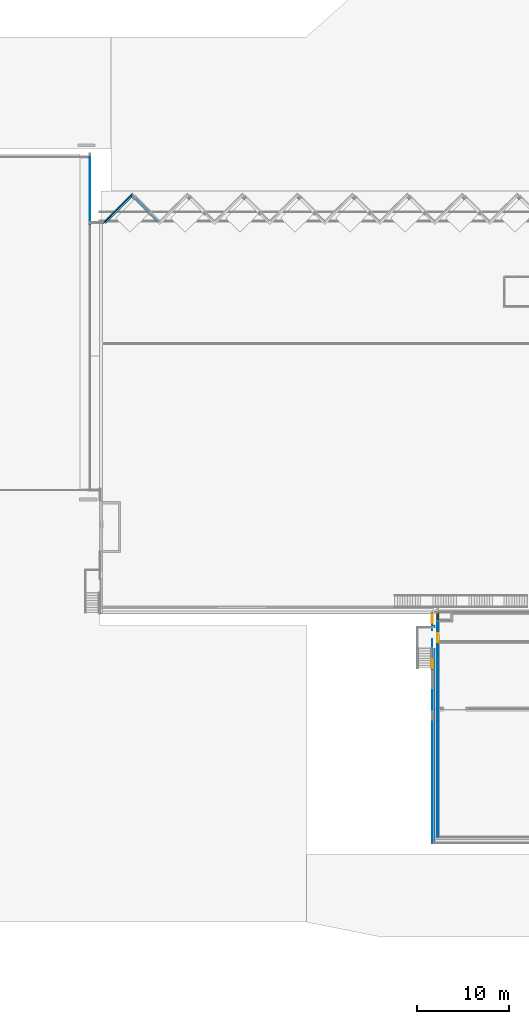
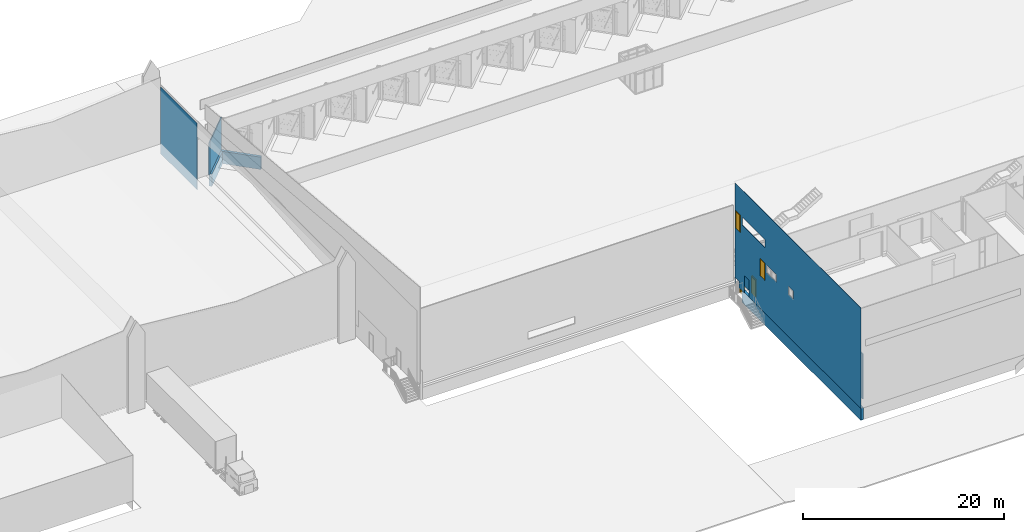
"""IFC2X3 building model written with IfcOpenShell, lengths in millimetres."""

from ifc_helpers import new_model, entity, si_unit, converted_unit, derived_unit, direction, frame, frame_2d, origin, origin_2d_with_axis, place, context, subcontext, project, spatial, polyline, rectangle, outline, extrude, clip, halfspace, source, transform, mapped, material, material_list, layer, layer_set, layer_usage, type_object, type_shapes, element, fill, save


model = new_model("IFC2X3")

# Units and contexts
model_context = context("Model", 3, precision=0.01, world=origin(), true_north=direction((4.05803320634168e-15, -1.0)))
body_context = subcontext(model_context, "Body", "Model", "MODEL_VIEW")
ifc_project = project(units=[si_unit("LENGTHUNIT", "METRE", prefix="MILLI"), si_unit("AREAUNIT", "SQUARE_METRE"), si_unit("VOLUMEUNIT", "CUBIC_METRE"), converted_unit("PLANEANGLEUNIT", "DEGREE", entity("IfcRatioMeasure", 0.0174532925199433), si_unit("PLANEANGLEUNIT", "RADIAN"), dimensions=[0, 0, 0, 0, 0, 0, 0]), si_unit("MASSUNIT", "GRAM", prefix="KILO"), derived_unit("MASSDENSITYUNIT", [(si_unit("MASSUNIT", "GRAM", prefix="KILO"), 1), (si_unit("LENGTHUNIT", "METRE"), -3)]), si_unit("TIMEUNIT", "SECOND"), si_unit("FREQUENCYUNIT", "HERTZ"), si_unit("THERMODYNAMICTEMPERATUREUNIT", "DEGREE_CELSIUS"), derived_unit("THERMALTRANSMITTANCEUNIT", [(si_unit("MASSUNIT", "GRAM", prefix="KILO"), 1), (si_unit("THERMODYNAMICTEMPERATUREUNIT", "KELVIN"), -1), (si_unit("TIMEUNIT", "SECOND"), -3)]), derived_unit("VOLUMETRICFLOWRATEUNIT", [(si_unit("LENGTHUNIT", "METRE"), 3), (si_unit("TIMEUNIT", "SECOND"), -1)]), si_unit("ELECTRICCURRENTUNIT", "AMPERE"), si_unit("ELECTRICVOLTAGEUNIT", "VOLT"), si_unit("POWERUNIT", "WATT"), si_unit("FORCEUNIT", "NEWTON", prefix="KILO"), si_unit("ILLUMINANCEUNIT", "LUX"), si_unit("LUMINOUSFLUXUNIT", "LUMEN"), si_unit("LUMINOUSINTENSITYUNIT", "CANDELA"), derived_unit("USERDEFINED", [(si_unit("MASSUNIT", "GRAM", prefix="KILO"), -1), (si_unit("LENGTHUNIT", "METRE"), -2), (si_unit("TIMEUNIT", "SECOND"), 3), (si_unit("LUMINOUSFLUXUNIT", "LUMEN"), 1)]), derived_unit("LINEARVELOCITYUNIT", [(si_unit("LENGTHUNIT", "METRE"), 1), (si_unit("TIMEUNIT", "SECOND"), -1)]), si_unit("PRESSUREUNIT", "PASCAL"), derived_unit("USERDEFINED", [(si_unit("LENGTHUNIT", "METRE"), -2), (si_unit("MASSUNIT", "GRAM", prefix="KILO"), 1), (si_unit("TIMEUNIT", "SECOND"), -2)])], contexts=[model_context])

# Site, building, storey
site_placement = place(None, frame((927466.849349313, 583801.882853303, 0.0), z_axis=(0.0, 0.0, 1.0), x_axis=(-1.0, 0.0, 0.0)))
site = spatial("IfcSite", under=ifc_project, at=site_placement, Name="Surface", CompositionType="ELEMENT")
building_placement = place(site_placement, origin())
building = spatial("IfcBuilding", under=site, at=building_placement, CompositionType="ELEMENT")
storey_1_placement = place(building_placement, frame((0.0, 0.0, 44170.0)))
storey_1 = spatial("IfcBuildingStorey", under=building, at=storey_1_placement, Name="Ground FFL", CompositionType="ELEMENT", Elevation=44170.0)

# Walls
ifc_material_1 = material(Name="Side cladding")
ifc_layer_1 = layer(ifc_material_1, 38.0)
ifc_layer_set_1 = layer_set([ifc_layer_1], Name="Basic Wall:Cladding dark")
ifc_layer_usage_1 = layer_usage(ifc_layer_set_1, "AXIS2", "NEGATIVE", 19.0)
wall_type_1 = type_object("IfcWallType", Name="Basic Wall:Cladding dark", PredefinedType="STANDARD", material=ifc_layer_set_1)
wall_1_placement = place(storey_1_placement, frame((-43531.3918981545, -30321.7403210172, -1295.37735616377), z_axis=(0.0, 0.0, 1.0), x_axis=(0.0, -1.0, 0.0)))
element("IfcWallStandardCase", 1, at=wall_1_placement, inside=storey_1, type_object=wall_type_1, material=ifc_layer_usage_1, Name="Basic Wall:Cladding dark", ObjectType="Basic Wall:Cladding dark", context=body_context, shape_type="Clipping", body=[
    clip(extrude(rectangle(XDim=7276.01140511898, YDim=37.9999999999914, at=frame_2d((3638.00570255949, -2.07478478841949e-12), x_axis=(-1.0, 0.0))), origin(), (0.0, 0.0, 1.0), 8100.0), halfspace(frame((0.0, -19.0, 8100.0), z_axis=(0.0, 0.0, 1.0), x_axis=(0.0, 1.0, 0.0)), False)),
])
ifc_material_2 = material(Name="Isopenal")
ifc_layer_2 = layer(ifc_material_2, 100.0)
ifc_layer_set_2 = layer_set([ifc_layer_2], Name="Basic Wall:Isopanel")
ifc_layer_usage_2 = layer_usage(ifc_layer_set_2, "AXIS2", "POSITIVE", -50.0)
wall_type_2 = type_object("IfcWallType", Name="Basic Wall:Isopanel", PredefinedType="STANDARD", material=ifc_layer_set_2)
wall_2_placement = place(storey_1_placement, frame((-48165.2057888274, -33638.9669325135, 0.0), z_axis=(0.0, 0.0, 1.0), x_axis=(0.707106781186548, 0.707106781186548, 0.0)))
element("IfcWallStandardCase", 2, at=wall_2_placement, inside=storey_1, type_object=wall_type_2, material=ifc_layer_usage_2, Name="Basic Wall:Isopanel", ObjectType="Basic Wall:Isopanel", context=body_context, shape_type="SweptSolid", body=[
    extrude(outline(polyline([(4599.84550720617, -50.0), (4499.84550720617, 50.0), (100.0, 50.0), (0.0, 50.0), (0.0, -50.0), (4458.42415096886, -50.0), (4599.84550720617, -50.0)])), origin(), (0.0, 0.0, 1.0), 3910.35154955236),
])

# Wall, opening
ifc_layer_usage_3 = layer_usage(ifc_layer_set_2, "AXIS2", "POSITIVE", -50.0)
wall_3_placement = place(storey_1_placement, frame((-81397.9372768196, 22507.4703266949, 500.0), z_axis=(0.0, 0.0, 1.0), x_axis=(0.0, 1.0, 0.0)))
wall_3 = element("IfcWallStandardCase", 3, at=wall_3_placement, inside=storey_1, type_object=wall_type_2, material=ifc_layer_usage_3, Name="Basic Wall:Isopanel", ObjectType="Basic Wall:Isopanel", context=body_context, shape_type="SweptSolid", body=[
    extrude(rectangle(XDim=13848.4995753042, YDim=100.000000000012, at=frame_2d((6924.24978765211, 2.8634872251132e-12), x_axis=(-1.0, 0.0))), origin(), (0.0, 0.0, 1.0), 5500.0),
])
opening_1_placement = place(wall_3_placement, origin())
element("IfcOpeningElement", 4, at=opening_1_placement, cuts=wall_3, Name="Basic Wall:Isopanel", ObjectType="Opening", context=body_context, shape_type="SweptSolid", body=[
    extrude(rectangle(XDim=899.999999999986, YDim=1000.0, at=frame_2d((2.18847162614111e-12, 0.0), x_axis=(0.0, 1.0))), frame((687.248923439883, 50.0, 5050.0), z_axis=(0.0, -1.0, 0.0), x_axis=(-1.0, 0.0, 0.0)), (0.0, 0.0, 1.0), 100.0),
])

# Wall, openings, door
ifc_layer_usage_4 = layer_usage(ifc_layer_set_2, "AXIS2", "NEGATIVE", 50.0)
wall_4_placement = place(storey_1_placement, frame((-81397.9372768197, 12008.2777512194, 0.0), z_axis=(0.0, 0.0, 1.0), x_axis=(0.0, 1.0, 0.0)))
wall_4 = element("IfcWallStandardCase", 5, at=wall_4_placement, inside=storey_1, type_object=wall_type_2, material=ifc_layer_usage_4, Name="Basic Wall:Isopanel", ObjectType="Basic Wall:Isopanel", context=body_context, shape_type="SweptSolid", body=[
    extrude(rectangle(XDim=10399.1925754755, YDim=100.000000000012, at=frame_2d((5199.59628773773, 3.35020899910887e-12), x_axis=(-1.0, 0.0))), origin(), (0.0, 0.0, 1.0), 3499.99999999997),
])
opening_2_placement = place(wall_4_placement, frame((3094.19257547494, 50.0, 0.0)))
opening_2 = element("IfcOpeningElement", 6, at=opening_2_placement, cuts=wall_4, Name="M_Single-Flush:0813 x 2030mm:1", ObjectType="Opening", context=body_context, shape_type="SweptSolid", body=[
    extrude(rectangle(XDim=813.0, YDim=2030.0, at=frame_2d((1015.0, 406.5), x_axis=(0.0, 1.0))), frame((0.0, 0.0, 0.0), z_axis=(0.0, -1.0, 0.0), x_axis=(0.0, 0.0, 1.0)), (0.0, 0.0, 1.0), 100.0),
])
opening_3_placement = place(wall_4_placement, frame((759.709606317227, 50.0, -1360.0)))
opening_3 = element("IfcOpeningElement", 7, at=opening_3_placement, cuts=wall_4, Name="M_Single-Flush:700 x 2030mm:1", ObjectType="Opening", context=body_context, shape_type="SweptSolid", body=[
    extrude(rectangle(XDim=700.0, YDim=2030.0, at=frame_2d((1015.0, 350.0), x_axis=(0.0, 1.0))), frame((0.0, 0.0, 0.0), z_axis=(0.0, -1.0, 0.0), x_axis=(0.0, 0.0, 1.0)), (0.0, 0.0, 1.0), 100.0),
])
ifc_material_3 = material(Name="Door - Frame")
ifc_material_4 = material(Name="Door - Panel")
ifc_material_list_1 = material_list([ifc_material_3, ifc_material_4])
ifc_material_list_2 = material_list([ifc_material_3, ifc_material_4])
door_style_1 = type_object("IfcDoorStyle", Name="0813 x 2030mm", ConstructionType="NOTDEFINED", OperationType="SINGLE_SWING_RIGHT", ParameterTakesPrecedence=False, Sizeable=False, material=ifc_material_list_2)
shared_shape_1 = source(origin(), body_context, "Body", "SweptSolid", [
    extrude(outline(polyline([(-482.5, -1072.0), (482.5, -1072.0), (482.5, 1034.0), (406.5, 1034.0), (406.5, -996.0), (-406.5, -996.0), (-406.5, 1034.0), (-482.5, 1034.0), (-482.5, -1072.0)])), frame((406.500000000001, 100.0, 1034.0), z_axis=(0.0, 1.0, 0.0), x_axis=(1.0, 0.0, 0.0)), (0.0, 0.0, 1.0), 24.9999999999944),
    extrude(outline(polyline([(-1072.0, -482.499999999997), (1034.0, -482.499999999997), (1034.0, -406.500000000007), (-996.0, -406.500000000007), (-996.0, 406.500000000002), (1034.0, 406.500000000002), (1034.0, 482.500000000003), (-1072.0, 482.500000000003), (-1072.0, -482.499999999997)])), frame((406.500000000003, -25.0, 1034.0), z_axis=(0.0, 1.0, 0.0), x_axis=(0.0, 0.0, -1.0)), (0.0, 0.0, 1.0), 25.0000000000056),
    extrude(rectangle(XDim=51.0, YDim=813.0, at=origin_2d_with_axis()), frame((406.500000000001, 74.4999999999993, 0.0), z_axis=(0.0, 0.0, 1.0), x_axis=(0.0, 1.0, 0.0)), (0.0, 0.0, 1.0), 2030.0),
])
type_shapes(door_style_1, [shared_shape_1])
door_1_placement = place(opening_2_placement, frame((0.0, 0.0, 0.0), z_axis=(0.0, 0.0, 1.0), x_axis=(-1.0, 0.0, 0.0)))
door_1 = element("IfcDoor", 8, at=door_1_placement, inside=storey_1, type_object=door_style_1, material=ifc_material_list_1, Name="M_Single-Flush:0813 x 2030mm", ObjectType="0813 x 2030mm", OverallHeight=2030.0, OverallWidth=812.999999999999, context=body_context, shape_type="MappedRepresentation", body=[
    mapped(shared_shape_1, transform((0.0, 0.0, 0.0), scale=1.0)),
])
fill(opening_2, door_1)

# Storey
storey_2_placement = place(building_placement, frame((0.0, 0.0, 42810.0)))
storey_2 = spatial("IfcBuildingStorey", under=building, at=storey_2_placement, Name="Hardstand", CompositionType="ELEMENT", Elevation=42810.0)

# Door
ifc_material_list_3 = material_list([ifc_material_3, ifc_material_4])
ifc_material_list_4 = material_list([ifc_material_3, ifc_material_4])
door_style_2 = type_object("IfcDoorStyle", Name="700 x 2030mm", ConstructionType="NOTDEFINED", OperationType="SINGLE_SWING_RIGHT", ParameterTakesPrecedence=False, Sizeable=False, material=ifc_material_list_4)
shared_shape_2 = source(origin(), body_context, "Body", "SweptSolid", [
    extrude(outline(polyline([(-426.0, -1072.0), (426.0, -1072.0), (426.0, 1034.0), (350.0, 1034.0), (350.0, -996.0), (-350.0, -996.0), (-350.0, 1034.0), (-426.0, 1034.0), (-426.0, -1072.0)])), frame((350.0, 100.0, 1034.0), z_axis=(0.0, 1.0, 0.0), x_axis=(1.0, 0.0, 0.0)), (0.0, 0.0, 1.0), 24.9999999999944),
    extrude(outline(polyline([(-1072.0, -426.0), (1034.0, -426.0), (1034.0, -350.0), (-996.0, -350.0), (-996.0, 350.0), (1034.0, 350.0), (1034.0, 426.0), (-1072.0, 426.0), (-1072.0, -426.0)])), frame((350.0, -25.0, 1034.0), z_axis=(0.0, 1.0, 0.0), x_axis=(0.0, 0.0, -1.0)), (0.0, 0.0, 1.0), 25.0000000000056),
    extrude(rectangle(XDim=51.0, YDim=700.0, at=origin_2d_with_axis()), frame((350.0, 74.5000000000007, 0.0), z_axis=(0.0, 0.0, 1.0), x_axis=(0.0, 1.0, 0.0)), (0.0, 0.0, 1.0), 2030.0),
])
type_shapes(door_style_2, [shared_shape_2])
door_2_placement = place(opening_3_placement, frame((0.0, 0.0, 0.0), z_axis=(0.0, 0.0, 1.0), x_axis=(-1.0, 0.0, 0.0)))
door_2 = element("IfcDoor", 9, at=door_2_placement, inside=storey_2, type_object=door_style_2, material=ifc_material_list_3, Name="M_Single-Flush:700 x 2030mm", ObjectType="700 x 2030mm", OverallHeight=2030.0, OverallWidth=699.999999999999, context=body_context, shape_type="MappedRepresentation", body=[
    mapped(shared_shape_2, transform((0.0, 0.0, 0.0), scale=1.0)),
])

fill(opening_3, door_2)

# Wall, openings
ifc_material_5 = material(Name="Cladding(2)")
ifc_layer_3 = layer(ifc_material_5, 38.0)
ifc_layer_set_3 = layer_set([ifc_layer_3], Name="Basic Wall:Cladding 3")
ifc_layer_usage_5 = layer_usage(ifc_layer_set_3, "AXIS2", "POSITIVE", -19.0)
wall_type_3 = type_object("IfcWallType", Name="Basic Wall:Cladding 3", PredefinedType="NOTDEFINED")
wall_5_placement = place(storey_1_placement, frame((-80781.5917798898, 37027.0854127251, 0.0), z_axis=(0.0, 0.0, 1.0), x_axis=(0.0, -1.0, 0.0)))
wall_5 = element("IfcWallStandardCase", 10, at=wall_5_placement, inside=storey_1, type_object=wall_type_3, material=ifc_layer_usage_5, Name="Basic Wall:Cladding 3", ObjectType="Basic Wall:Cladding 3", context=body_context, shape_type="SweptSolid", body=[
    extrude(rectangle(XDim=24978.8076615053, YDim=37.9999999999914, at=frame_2d((12489.4038307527, 4.65405491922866e-13), x_axis=(-1.0, 0.0))), origin(), (0.0, 0.0, 1.0), 12200.0),
])
opening_4_placement = place(wall_5_placement, origin())
element("IfcOpeningElement", 11, at=opening_4_placement, cuts=wall_5, Name="Basic Wall:Cladding 3", ObjectType="Opening", context=body_context, shape_type="SweptSolid", body=[
    extrude(rectangle(XDim=919.999999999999, YDim=1900.0, at=frame_2d((0.0, 0.0), x_axis=(0.0, 1.0))), frame((17727.8076615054, -171.399999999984, 5630.53965100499), z_axis=(0.0, 1.0, 0.0), x_axis=(-1.0, 0.0, 0.0)), (0.0, 0.0, 1.0), 342.799999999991),
])
opening_5_placement = place(wall_5_placement, origin())
element("IfcOpeningElement", 12, at=opening_5_placement, cuts=wall_5, Name="Basic Wall:Cladding 3", ObjectType="Opening", context=body_context, shape_type="SweptSolid", body=[
    extrude(rectangle(XDim=966.878503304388, YDim=4500.0, at=origin_2d_with_axis()), frame((21269.6150860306, -171.399999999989, 8473.66735203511), z_axis=(0.0, 1.0, 0.0), x_axis=(0.0, 0.0, 1.0)), (0.0, 0.0, 1.0), 342.799999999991),
])
opening_6_placement = place(wall_5_placement, origin())
element("IfcOpeningElement", 13, at=opening_6_placement, cuts=wall_5, Name="Basic Wall:Cladding 3", ObjectType="Opening", context=body_context, shape_type="SweptSolid", body=[
    extrude(rectangle(XDim=999.999999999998, YDim=1000.0, at=frame_2d((-2.1600499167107e-12, 0.0), x_axis=(0.0, 1.0))), frame((13832.3661625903, -171.399999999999, 5630.53965100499), z_axis=(0.0, 1.0, 0.0), x_axis=(-1.0, 0.0, 0.0)), (0.0, 0.0, 1.0), 342.799999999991),
])
opening_7_placement = place(wall_5_placement, origin())
element("IfcOpeningElement", 14, at=opening_7_placement, cuts=wall_5, Name="Basic Wall:Cladding 3", ObjectType="Opening", context=body_context, shape_type="SweptSolid", body=[
    extrude(rectangle(XDim=2106.0, YDim=965.000000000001, at=frame_2d((-2.1600499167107e-12, 4.32009983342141e-12), x_axis=(0.0, 1.0))), frame((22646.1150860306, 19.0, 1053.0), z_axis=(0.0, -1.0, 0.0), x_axis=(1.0, 0.0, 0.0)), (0.0, 0.0, 1.0), 38.0),
])
opening_8_placement = place(wall_5_placement, origin())
element("IfcOpeningElement", 15, at=opening_8_placement, cuts=wall_5, Name="Basic Wall:Cladding 3", ObjectType="Opening", context=body_context, shape_type="SweptSolid", body=[
    extrude(rectangle(XDim=746.000000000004, YDim=776.709606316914, at=frame_2d((0.0, 0.0), x_axis=(0.0, 1.0))), frame((24571.4528583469, 19.0, 373.0), z_axis=(0.0, -1.0, 0.0), x_axis=(1.0, 0.0, 0.0)), (0.0, 0.0, 1.0), 38.0),
])
opening_9_placement = place(wall_5_placement, frame((19097.8175100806, -19.0, 4000.0)))
opening_9 = element("IfcOpeningElement", 16, at=opening_9_placement, cuts=wall_5, Name="M_Single-Flush:0813 x 2030mm:1", ObjectType="Opening", context=body_context, shape_type="SweptSolid", body=[
    extrude(rectangle(XDim=813.0, YDim=2030.0, at=frame_2d((1015.0, 406.500000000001), x_axis=(0.0, -1.0))), frame((0.0, 0.0, 0.0), z_axis=(0.0, 1.0, 0.0), x_axis=(0.0, 0.0, 1.0)), (0.0, 0.0, 1.0), 38.0),
])
opening_10_placement = place(wall_5_placement, frame((24004.8076615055, -19.0, 6857.10660368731)))
opening_10 = element("IfcOpeningElement", 17, at=opening_10_placement, cuts=wall_5, Name="M_Single-Flush:0813 x 2030mm:1", ObjectType="Opening", context=body_context, shape_type="SweptSolid", body=[
    extrude(rectangle(XDim=813.0, YDim=2030.0, at=frame_2d((1015.0, 406.499999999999), x_axis=(0.0, 1.0))), frame((0.0, 0.0, 0.0), z_axis=(0.0, 1.0, 0.0), x_axis=(0.0, 0.0, 1.0)), (0.0, 0.0, 1.0), 38.0),
])

# Storey
storey_3_placement = place(building_placement, frame((0.0, 0.0, 48170.0)))
storey_3 = spatial("IfcBuildingStorey", under=building, at=storey_3_placement, Name="First floor", CompositionType="ELEMENT", Elevation=48170.0)

# Door
ifc_material_list_5 = material_list([ifc_material_3, ifc_material_4])
ifc_material_list_6 = material_list([ifc_material_3, ifc_material_4])
door_style_3 = type_object("IfcDoorStyle", Name="0813 x 2030mm", ConstructionType="NOTDEFINED", OperationType="SINGLE_SWING_LEFT", ParameterTakesPrecedence=False, Sizeable=False, material=ifc_material_list_6)
shared_shape_3 = source(origin(), body_context, "Body", "SweptSolid", [
    extrude(outline(polyline([(-482.5, -1072.0), (482.5, -1072.0), (482.5, 1034.0), (406.5, 1034.0), (406.5, -996.0), (-406.5, -996.0), (-406.5, 1034.0), (-482.5, 1034.0), (-482.5, -1072.0)])), frame((406.5, 63.0, 1034.0), z_axis=(0.0, -1.0, 0.0), x_axis=(-1.0, 0.0, 0.0)), (0.0, 0.0, 1.0), 24.9999999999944),
    extrude(outline(polyline([(-1072.0, -482.499999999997), (1034.0, -482.499999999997), (1034.0, -406.500000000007), (-996.0, -406.500000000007), (-996.0, 406.500000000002), (1034.0, 406.500000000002), (1034.0, 482.500000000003), (-1072.0, 482.500000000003), (-1072.0, -482.499999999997)])), frame((406.499999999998, 0.0, 1034.0), z_axis=(0.0, -1.0, 0.0), x_axis=(0.0, 0.0, -1.0)), (0.0, 0.0, 1.0), 25.0000000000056),
    extrude(rectangle(XDim=813.0, YDim=51.0, at=frame_2d((0.0, -3.5527136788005e-15), x_axis=(1.0, 0.0))), frame((406.500000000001, 12.4999999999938, 0.0)), (0.0, 0.0, 1.0), 2030.0),
])
type_shapes(door_style_3, [shared_shape_3])
door_3_placement = place(opening_9_placement, origin())
door_3 = element("IfcDoor", 18, at=door_3_placement, inside=storey_3, type_object=door_style_3, material=ifc_material_list_5, Name="M_Single-Flush:0813 x 2030mm", ObjectType="0813 x 2030mm", OverallHeight=2030.0, OverallWidth=812.999999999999, context=body_context, shape_type="MappedRepresentation", body=[
    mapped(shared_shape_3, transform((0.0, 0.0, 0.0), scale=1.0)),
])

fill(opening_9, door_3)

# Storey
storey_4_placement = place(building_placement, frame((0.0, 0.0, 51027.1066036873)))
storey_4 = spatial("IfcBuildingStorey", under=building, at=storey_4_placement, Name="2nd floor", CompositionType="ELEMENT", Elevation=51027.1066036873)

# Door
ifc_material_list_7 = material_list([ifc_material_3, ifc_material_4])
ifc_material_list_8 = material_list([ifc_material_3, ifc_material_4])
door_style_4 = type_object("IfcDoorStyle", Name="0813 x 2030mm", ConstructionType="NOTDEFINED", OperationType="SINGLE_SWING_RIGHT", ParameterTakesPrecedence=False, Sizeable=False, material=ifc_material_list_8)
shared_shape_4 = source(origin(), body_context, "Body", "SweptSolid", [
    extrude(outline(polyline([(-482.5, -1072.0), (482.5, -1072.0), (482.5, 1034.0), (406.5, 1034.0), (406.5, -996.0), (-406.5, -996.0), (-406.5, 1034.0), (-482.5, 1034.0), (-482.5, -1072.0)])), frame((406.500000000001, 38.0, 1034.0), z_axis=(0.0, 1.0, 0.0), x_axis=(1.0, 0.0, 0.0)), (0.0, 0.0, 1.0), 24.9999999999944),
    extrude(outline(polyline([(-1072.0, -482.499999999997), (1034.0, -482.499999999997), (1034.0, -406.500000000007), (-996.0, -406.500000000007), (-996.0, 406.500000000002), (1034.0, 406.500000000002), (1034.0, 482.500000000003), (-1072.0, 482.500000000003), (-1072.0, -482.499999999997)])), frame((406.500000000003, -25.0, 1034.0), z_axis=(0.0, 1.0, 0.0), x_axis=(0.0, 0.0, -1.0)), (0.0, 0.0, 1.0), 25.0000000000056),
    extrude(rectangle(XDim=51.0, YDim=813.0, at=origin_2d_with_axis()), frame((406.500000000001, 12.4999999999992, 0.0), z_axis=(0.0, 0.0, 1.0), x_axis=(0.0, 1.0, 0.0)), (0.0, 0.0, 1.0), 2030.0),
])
type_shapes(door_style_4, [shared_shape_4])
door_4_placement = place(opening_10_placement, origin())
door_4 = element("IfcDoor", 19, at=door_4_placement, inside=storey_4, type_object=door_style_4, material=ifc_material_list_7, Name="M_Single-Flush:0813 x 2030mm", ObjectType="0813 x 2030mm", OverallHeight=2030.0, OverallWidth=812.999999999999, context=body_context, shape_type="MappedRepresentation", body=[
    mapped(shared_shape_4, transform((0.0, 0.0, 0.0), scale=1.0)),
])

fill(opening_10, door_4)

# Walls
ifc_material_6 = material(Name="conc bund")
ifc_layer_4 = layer(ifc_material_6, 300.0)
ifc_layer_set_4 = layer_set([ifc_layer_4], Name="Basic Wall:300 bund wall")
ifc_layer_usage_6 = layer_usage(ifc_layer_set_4, "AXIS2", "NEGATIVE", 150.0)
wall_type_4 = type_object("IfcWallType", Name="Basic Wall:300 bund wall", PredefinedType="STANDARD", material=ifc_layer_set_4)
wall_6_placement = place(storey_1_placement, frame((-80950.5917798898, 36973.4058517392, -1500.50294636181), z_axis=(0.0, 0.0, 1.0), x_axis=(0.0, -1.0, 0.0)))
element("IfcWallStandardCase", 20, at=wall_6_placement, inside=storey_1, type_object=wall_type_4, material=ifc_layer_usage_6, Name="Basic Wall:300 bund wall", ObjectType="Basic Wall:300 bund wall", context=body_context, shape_type="Clipping", body=[
    clip(extrude(rectangle(XDim=23654.1379490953, YDim=300.000000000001, at=frame_2d((11827.0689745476, -5.01643171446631e-12), x_axis=(-1.0, 0.0))), origin(), (0.0, 0.0, 1.0), 1500.50294636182), halfspace(frame((0.0, -150.0, 1500.50294636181), z_axis=(0.0, 0.0, 1.0), x_axis=(0.0, 1.0, 0.0)), False)),
])
ifc_layer_usage_7 = layer_usage(ifc_layer_set_4, "AXIS2", "NEGATIVE", 150.0)
wall_7_placement = place(storey_1_placement, frame((-48023.7844325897, -33568.256254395, -1500.0), z_axis=(0.0, 0.0, 1.0), x_axis=(-0.70710678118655, 0.707106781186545, 0.0)))
element("IfcWallStandardCase", 21, at=wall_7_placement, inside=storey_1, type_object=wall_type_4, material=ifc_layer_usage_7, Name="Basic Wall:300 bund wall", ObjectType="Basic Wall:300 bund wall", context=body_context, shape_type="SweptSolid", body=[
    extrude(rectangle(XDim=4232.26267936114, YDim=299.999999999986, at=frame_2d((2116.13133968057, -3.68061137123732e-12), x_axis=(-1.0, 0.0))), origin(), (0.0, 0.0, 1.0), 1500.00000000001),
])
ifc_layer_usage_8 = layer_usage(ifc_layer_set_4, "AXIS2", "POSITIVE", -150.0)
wall_8_placement = place(storey_1_placement, frame((-48023.7844325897, -33356.124220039, -1500.0), z_axis=(0.0, 0.0, 1.0), x_axis=(0.70710678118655, 0.707106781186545, 0.0)))
element("IfcWallStandardCase", 22, at=wall_8_placement, inside=storey_1, type_object=wall_type_4, material=ifc_layer_usage_8, Name="Basic Wall:300 bund wall", ObjectType="Basic Wall:300 bund wall", context=body_context, shape_type="SweptSolid", body=[
    extrude(rectangle(XDim=4079.13482908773, YDim=299.999999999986, at=frame_2d((2039.56741454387, 3.31112914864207e-12), x_axis=(-1.0, 0.0))), origin(), (0.0, 0.0, 1.0), 1500.00000000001),
])

save(model, "model.ifc")
